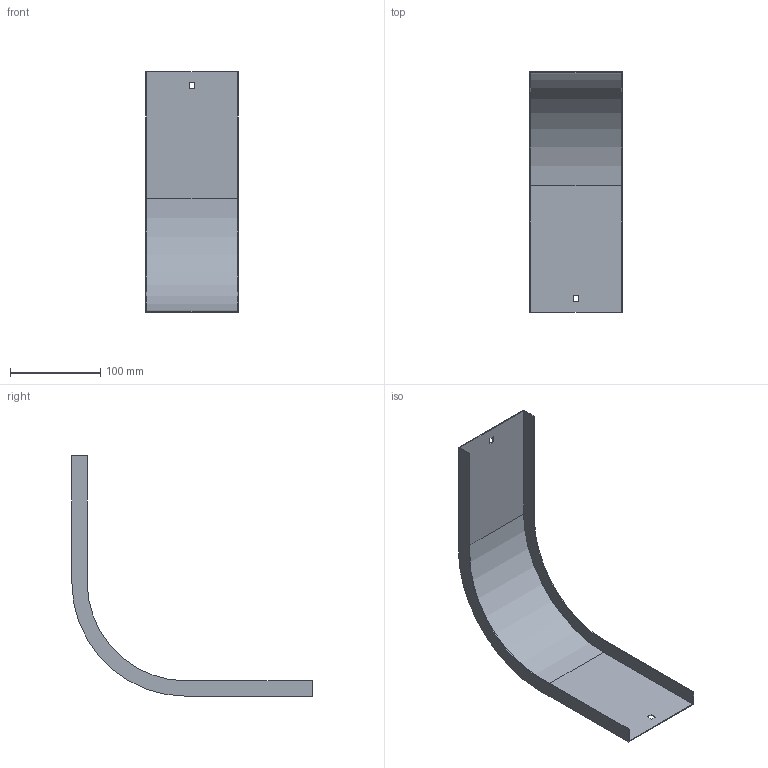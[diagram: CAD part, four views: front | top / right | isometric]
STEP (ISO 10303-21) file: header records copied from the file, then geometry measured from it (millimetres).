
FILE_DESCRIPTION (( 'STEP AP214' ), '1' );
FILE_NAME ('OD9_101.step', '2025-07-16T09:12:40', ( '' ), ( '' ), 'SwSTEP 2.0', 'SolidWorks 2023', '' );
FILE_SCHEMA (( 'AUTOMOTIVE_DESIGN' ));
Length unit declared in the file: millimetre
Products named in the file (1): OD9_101
Bounding box: 102 x 266 x 266 mm (x, y, z)
Volume: 63424.8 mm3; surface area: 128073.7 mm2
Topology: 1 solids, 1 shells, 26 faces, 72 edges, 48 vertices
Faces by surface type: plane 22, cylinder 4
Entity records: 855 total; most frequent: CARTESIAN_POINT 147, ORIENTED_EDGE 144, DIRECTION 134, EDGE_CURVE 72, LINE 64, VECTOR 64, VERTEX_POINT 48, AXIS2_PLACEMENT_3D 35
